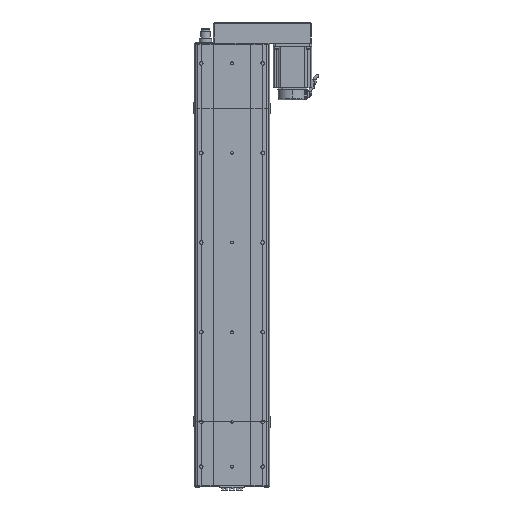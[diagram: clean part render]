
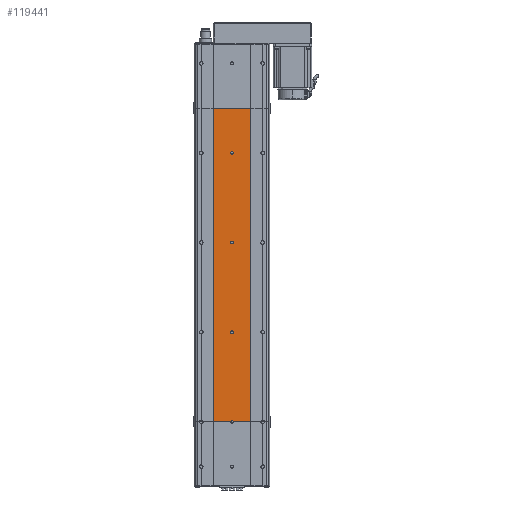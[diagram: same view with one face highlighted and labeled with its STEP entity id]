
A CAD part, front view. The second image highlights one B-rep face of the part: STEP entity #119441.
In plain terms, the highlighted planar face has unit normal (0, -1, 0).
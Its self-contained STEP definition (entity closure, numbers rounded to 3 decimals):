
#78992 = DIRECTION ( 'NONE',  ( 0., 0., -1. ) ) ;
#78994 = DIRECTION ( 'NONE',  ( 0., -1., 0. ) ) ;
#78995 = AXIS2_PLACEMENT_3D ( 'NONE', #79022, #78994, #78992 ) ;
#79022 = CARTESIAN_POINT ( 'NONE',  ( 0., 0., 400. ) ) ;
#79154 = CARTESIAN_POINT ( 'NONE',  ( 0., 0., 197. ) ) ;
#79162 = CARTESIAN_POINT ( 'NONE',  ( 0., 0., 403. ) ) ;
#79168 = CIRCLE ( 'NONE', #78995, 3. ) ;
#79272 = CARTESIAN_POINT ( 'NONE',  ( 0., 0., 397. ) ) ;
#79281 = CARTESIAN_POINT ( 'NONE',  ( 0., 0., 203. ) ) ;
#79324 = CARTESIAN_POINT ( 'NONE',  ( 0., 0., 597. ) ) ;
#79904 = CARTESIAN_POINT ( 'NONE',  ( 0., 0., 200. ) ) ;
#79917 = DIRECTION ( 'NONE',  ( 0., 0., -1. ) ) ;
#79918 = DIRECTION ( 'NONE',  ( 0., -1., 0. ) ) ;
#79920 = AXIS2_PLACEMENT_3D ( 'NONE', #79904, #79918, #79917 ) ;
#79921 = CIRCLE ( 'NONE', #79920, 3. ) ;
#80156 = CARTESIAN_POINT ( 'NONE',  ( 41.5, 0., 0. ) ) ;
#80222 = CARTESIAN_POINT ( 'NONE',  ( 0., 0., 603. ) ) ;
#80251 = DIRECTION ( 'NONE',  ( 0., 0., -1. ) ) ;
#80254 = DIRECTION ( 'NONE',  ( 0., -1., 0. ) ) ;
#80256 = CARTESIAN_POINT ( 'NONE',  ( 0., 0., 0. ) ) ;
#80258 = AXIS2_PLACEMENT_3D ( 'NONE', #80256, #80254, #80251 ) ;
#80269 = DIRECTION ( 'NONE',  ( 0., 0., -1. ) ) ;
#80271 = DIRECTION ( 'NONE',  ( 0., -1., 0. ) ) ;
#80272 = AXIS2_PLACEMENT_3D ( 'NONE', #80324, #80271, #80269 ) ;
#80311 = CIRCLE ( 'NONE', #80258, 3. ) ;
#80324 = CARTESIAN_POINT ( 'NONE',  ( 0., 0., 200. ) ) ;
#80331 = CIRCLE ( 'NONE', #80272, 3. ) ;
#80580 = FACE_BOUND ( 'NONE', #119423, .T. ) ;
#80591 = DIRECTION ( 'NONE',  ( 0., 0., -1. ) ) ;
#80597 = CARTESIAN_POINT ( 'NONE',  ( -41.5, 0., 700. ) ) ;
#80619 = DIRECTION ( 'NONE',  ( 0., 0., -1. ) ) ;
#80640 = DIRECTION ( 'NONE',  ( 1., 0., 0. ) ) ;
#80641 = VECTOR ( 'NONE', #80640, 1000. ) ;
#80643 = CARTESIAN_POINT ( 'NONE',  ( 0., 0., 0. ) ) ;
#80644 = VECTOR ( 'NONE', #80649, 1000. ) ;
#80649 = DIRECTION ( 'NONE',  ( 0., 0., -1. ) ) ;
#80650 = CARTESIAN_POINT ( 'NONE',  ( 41.5, 0., 700. ) ) ;
#80654 = LINE ( 'NONE', #80650, #80644 ) ;
#80682 = FACE_BOUND ( 'NONE', #119641, .T. ) ;
#80684 = CARTESIAN_POINT ( 'NONE',  ( 0., 0., 400. ) ) ;
#80689 = AXIS2_PLACEMENT_3D ( 'NONE', #80989, #80706, #80695 ) ;
#80695 = DIRECTION ( 'NONE',  ( 0., 0., 1. ) ) ;
#80704 = CARTESIAN_POINT ( 'NONE',  ( -3., 0., 0. ) ) ;
#80706 = DIRECTION ( 'NONE',  ( 0., 1., 0. ) ) ;
#80707 = FACE_OUTER_BOUND ( 'NONE', #119029, .T. ) ;
#80710 = CIRCLE ( 'NONE', #80822, 3. ) ;
#80729 = DIRECTION ( 'NONE',  ( 1., 0., 0. ) ) ;
#80730 = VECTOR ( 'NONE', #80729, 1000. ) ;
#80734 = CARTESIAN_POINT ( 'NONE',  ( 0., 0., 700. ) ) ;
#80736 = LINE ( 'NONE', #80734, #80730 ) ;
#80752 = DIRECTION ( 'NONE',  ( 0., -1., 0. ) ) ;
#80756 = CARTESIAN_POINT ( 'NONE',  ( 41.5, 0., 700. ) ) ;
#80802 = CARTESIAN_POINT ( 'NONE',  ( 0., 0., 600. ) ) ;
#80804 = LINE ( 'NONE', #80975, #80973 ) ;
#80806 = DIRECTION ( 'NONE',  ( -1., 0., 0. ) ) ;
#80807 = VECTOR ( 'NONE', #80806, 1000. ) ;
#80811 = CIRCLE ( 'NONE', #80953, 3. ) ;
#80814 = DIRECTION ( 'NONE',  ( 0., -1., 0. ) ) ;
#80816 = DIRECTION ( 'NONE',  ( 0., 0., -1. ) ) ;
#80817 = DIRECTION ( 'NONE',  ( 0., -1., 0. ) ) ;
#80819 = CARTESIAN_POINT ( 'NONE',  ( 0., 0., 600. ) ) ;
#80822 = AXIS2_PLACEMENT_3D ( 'NONE', #80684, #80752, #80619 ) ;
#80845 = AXIS2_PLACEMENT_3D ( 'NONE', #80819, #80817, #80816 ) ;
#80891 = FACE_BOUND ( 'NONE', #119342, .T. ) ;
#80913 = LINE ( 'NONE', #80643, #80641 ) ;
#80933 = CARTESIAN_POINT ( 'NONE',  ( -41.5, 0., 0. ) ) ;
#80939 = PLANE ( 'NONE',  #80689 ) ;
#80951 = CIRCLE ( 'NONE', #80845, 3. ) ;
#80953 = AXIS2_PLACEMENT_3D ( 'NONE', #80802, #80814, #80591 ) ;
#80955 = CARTESIAN_POINT ( 'NONE',  ( 0., 0., 0. ) ) ;
#80956 = LINE ( 'NONE', #80955, #80807 ) ;
#80971 = DIRECTION ( 'NONE',  ( 0., 0., -1. ) ) ;
#80973 = VECTOR ( 'NONE', #80971, 1000. ) ;
#80975 = CARTESIAN_POINT ( 'NONE',  ( -41.5, 0., 700. ) ) ;
#80989 = CARTESIAN_POINT ( 'NONE',  ( 0., 0., 700. ) ) ;
#81204 = CARTESIAN_POINT ( 'NONE',  ( 3., 0., 0. ) ) ;
#118488 = VERTEX_POINT ( 'NONE', #79281 ) ;
#118491 = VERTEX_POINT ( 'NONE', #79272 ) ;
#118495 = VERTEX_POINT ( 'NONE', #79162 ) ;
#118509 = VERTEX_POINT ( 'NONE', #79154 ) ;
#118517 = EDGE_CURVE ( 'NONE', #118495, #118491, #79168, .T. ) ;
#118701 = VERTEX_POINT ( 'NONE', #79324 ) ;
#118985 = EDGE_CURVE ( 'NONE', #118488, #118509, #79921, .T. ) ;
#119029 = EDGE_LOOP ( 'NONE', ( #119458, #119288, #119296, #119330, #119226, #119294 ) ) ;
#119215 = EDGE_CURVE ( 'NONE', #118509, #118488, #80331, .T. ) ;
#119224 = EDGE_CURVE ( 'NONE', #119894, #119456, #80311, .T. ) ;
#119226 = ORIENTED_EDGE ( 'NONE', *, *, #119528, .F. ) ;
#119288 = ORIENTED_EDGE ( 'NONE', *, *, #119224, .F. ) ;
#119294 = ORIENTED_EDGE ( 'NONE', *, *, #119535, .T. ) ;
#119296 = ORIENTED_EDGE ( 'NONE', *, *, #119631, .T. ) ;
#119330 = ORIENTED_EDGE ( 'NONE', *, *, #119629, .F. ) ;
#119332 = VERTEX_POINT ( 'NONE', #80156 ) ;
#119336 = ORIENTED_EDGE ( 'NONE', *, *, #118517, .F. ) ;
#119342 = EDGE_LOOP ( 'NONE', ( #119442, #119495 ) ) ;
#119375 = VERTEX_POINT ( 'NONE', #80222 ) ;
#119423 = EDGE_LOOP ( 'NONE', ( #119425, #119336 ) ) ;
#119425 = ORIENTED_EDGE ( 'NONE', *, *, #119452, .F. ) ;
#119441 = ADVANCED_FACE ( 'NONE', ( #80682, #80891, #80580, #80707 ), #80939, .F. ) ;
#119442 = ORIENTED_EDGE ( 'NONE', *, *, #119471, .F. ) ;
#119452 = EDGE_CURVE ( 'NONE', #118491, #118495, #80710, .T. ) ;
#119456 = VERTEX_POINT ( 'NONE', #80704 ) ;
#119458 = ORIENTED_EDGE ( 'NONE', *, *, #119501, .F. ) ;
#119471 = EDGE_CURVE ( 'NONE', #118701, #119375, #80951, .T. ) ;
#119495 = ORIENTED_EDGE ( 'NONE', *, *, #119505, .F. ) ;
#119498 = ORIENTED_EDGE ( 'NONE', *, *, #118985, .F. ) ;
#119501 = EDGE_CURVE ( 'NONE', #119456, #119660, #80956, .T. ) ;
#119505 = EDGE_CURVE ( 'NONE', #119375, #118701, #80811, .T. ) ;
#119524 = VERTEX_POINT ( 'NONE', #80756 ) ;
#119528 = EDGE_CURVE ( 'NONE', #119532, #119524, #80736, .T. ) ;
#119532 = VERTEX_POINT ( 'NONE', #80597 ) ;
#119535 = EDGE_CURVE ( 'NONE', #119532, #119660, #80804, .T. ) ;
#119629 = EDGE_CURVE ( 'NONE', #119524, #119332, #80654, .T. ) ;
#119631 = EDGE_CURVE ( 'NONE', #119894, #119332, #80913, .T. ) ;
#119641 = EDGE_LOOP ( 'NONE', ( #119662, #119498 ) ) ;
#119660 = VERTEX_POINT ( 'NONE', #80933 ) ;
#119662 = ORIENTED_EDGE ( 'NONE', *, *, #119215, .F. ) ;
#119894 = VERTEX_POINT ( 'NONE', #81204 ) ;
